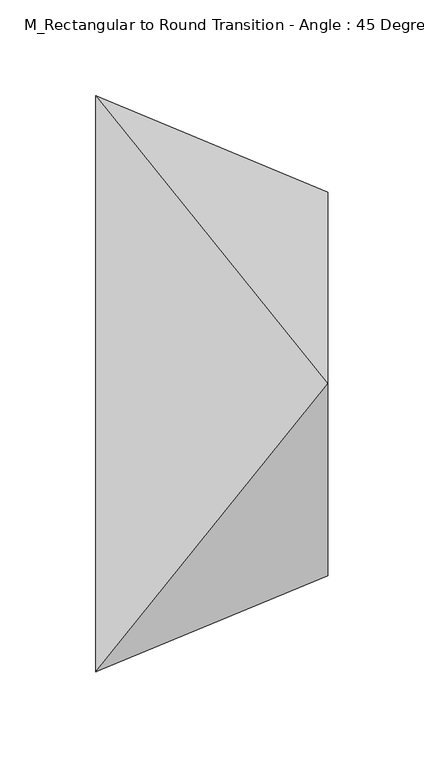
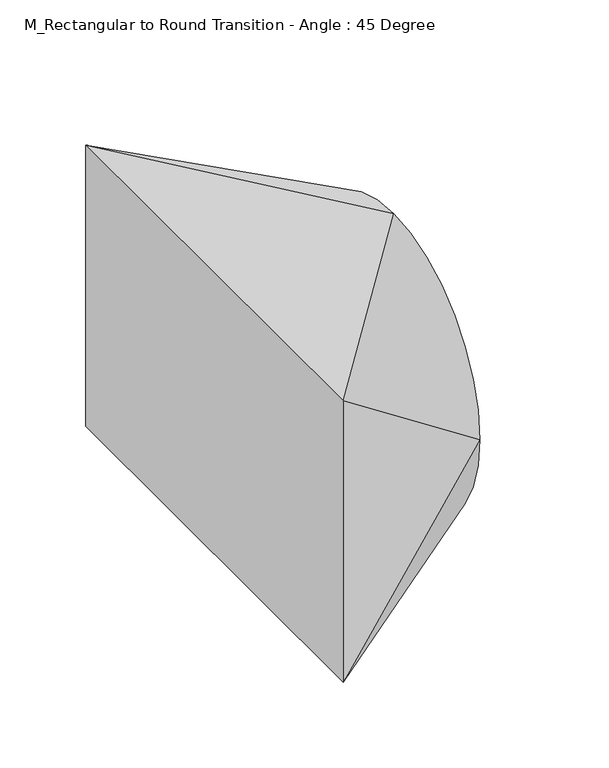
"""IFC4 building model written with IfcOpenShell, lengths in millimetres: duct fitting geometry, M_Rectangular to Round Transition - Angle : 45 Degree."""

from ifc_helpers import new_model, si_unit, frame, origin, place, context, project, spatial, circle_curve, source, transform, mapped, element, save
from ifc_brep_helpers import plane_surface, spline_surface, advanced_brep


def m_rectangular_to_round_transition_angle_45_degree_7e9c3f7e(model_context):
    return source(origin(), model_context, "Body", "AdvancedBrep", [
        advanced_brep(
        [(0.0, -150.0, -100.0), (0.0, -150.0, 100.0), (0.0, 150.0, 100.0), (0.0, 150.0, -100.0), (120.7106781, -100.0, 0.0), (120.7106781, 0.0, -100.0), (120.7106781, 100.0, 0.0), (120.7106781, 0.0, 100.0)],
        [
            (0, 1),
            (1, 2),
            (2, 3),
            (3, 0),
            (4, 5, circle_curve(frame((120.7106781, 0.0, 0.0), z_axis=(1.0, 0.0, 0.0), x_axis=(0.0, -1.0, 0.0)), 100.0)),
            (5, 6, circle_curve(frame((120.7106781, 0.0, 0.0), z_axis=(1.0, 0.0, 0.0), x_axis=(0.0, -1.0, 0.0)), 100.0)),
            (6, 7, circle_curve(frame((120.7106781, 0.0, 0.0), z_axis=(1.0, 0.0, 0.0), x_axis=(0.0, -1.0, 0.0)), 100.0)),
            (7, 4, circle_curve(frame((120.7106781, 0.0, 0.0), z_axis=(1.0, 0.0, 0.0), x_axis=(0.0, -1.0, 0.0)), 100.0)),
            (0, 4),
            (4, 1),
            (7, 1),
            (7, 2),
            (6, 2),
            (6, 3),
            (5, 3),
            (5, 0),
        ],
        [
            plane_surface(frame((0.0, 0.0, 0.0), z_axis=(-1.0, 0.0, 0.0), x_axis=(0.0, 1.0, 0.0))),
            plane_surface(frame((120.7106781, 0.0, 0.0), z_axis=(1.0, 0.0, 0.0), x_axis=(0.0, 1.0, 0.0))),
            plane_surface(frame((120.7106781, -100.0, 0.0), z_axis=(0.38268343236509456, -0.9238795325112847, 0.0), x_axis=(0.0, 0.0, 1.0))),
            spline_surface(2, 1, [[(120.7106781, -100.0, 0.0), (0.0, -150.0, 100.0)], [(120.7106781, -100.0, 100.0), (0.0, -150.0, 100.0)], [(120.7106781, 0.0, 100.0), (0.0, -150.0, 100.0)]], [3, 3], [2, 2], [0.0, 1.0], [0.0, 1.0], weights=[[1.0, 1.0], [0.7071067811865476, 0.7071067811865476], [1.0, 1.0]]),
            plane_surface(frame((120.7106781, 0.0, 100.0), z_axis=(0.0, 0.0, 1.0), x_axis=(0.0, 1.0, 0.0))),
            spline_surface(2, 1, [[(120.7106781, 0.0, 100.0), (0.0, 150.0, 100.0)], [(120.7106781, 100.0, 100.0), (0.0, 150.0, 100.0)], [(120.7106781, 100.0, 0.0), (0.0, 150.0, 100.0)]], [3, 3], [2, 2], [0.0, 1.0], [0.0, 1.0], weights=[[1.0, 1.0], [0.7071067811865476, 0.7071067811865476], [1.0, 1.0]]),
            plane_surface(frame((120.7106781, 100.0, 0.0), z_axis=(0.38268343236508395, 0.9238795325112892, 0.0), x_axis=(0.0, 0.0, -1.0))),
            spline_surface(2, 1, [[(120.7106781, 100.0, 0.0), (0.0, 150.0, -100.0)], [(120.7106781, 100.0, -100.0), (0.0, 150.0, -100.0)], [(120.7106781, 0.0, -100.0), (0.0, 150.0, -100.0)]], [3, 3], [2, 2], [0.0, 1.0], [0.0, 1.0], weights=[[1.0, 1.0], [0.7071067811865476, 0.7071067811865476], [1.0, 1.0]]),
            plane_surface(frame((120.7106781, 0.0, -100.0), z_axis=(0.0, 0.0, -1.0), x_axis=(0.0, -1.0, 0.0))),
            spline_surface(2, 1, [[(120.7106781, 0.0, -100.0), (0.0, -150.0, -100.0)], [(120.7106781, -100.0, -100.0), (0.0, -150.0, -100.0)], [(120.7106781, -100.0, 0.0), (0.0, -150.0, -100.0)]], [3, 3], [2, 2], [0.0, 1.0], [0.0, 1.0], weights=[[1.0, 1.0], [0.7071067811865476, 0.7071067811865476], [1.0, 1.0]]),
        ],
        [
            (0, [[1, 2, 3, 4]]),
            (1, [[5, 6, 7, 8]]),
            (2, [[-1, 9, 10]]),
            (3, [[-8, 11, -10]]),
            (4, [[-2, -11, 12]]),
            (5, [[-7, 13, -12]]),
            (6, [[-3, -13, 14]]),
            (7, [[-6, 15, -14]]),
            (8, [[-4, -15, 16]]),
            (9, [[-5, -9, -16]]),
        ],
    ),
        advanced_brep(
        [(0.0, -150.0, -100.0), (0.0, -150.0, 100.0), (0.0, 150.0, 100.0), (0.0, 150.0, -100.0), (120.7106781, -100.0, 0.0), (120.7106781, 0.0, -100.0), (120.7106781, 100.0, 0.0), (120.7106781, 0.0, 100.0)],
        [
            (0, 1),
            (1, 2),
            (2, 3),
            (3, 0),
            (4, 5, circle_curve(frame((120.7106781, 0.0, 0.0), z_axis=(1.0, 0.0, 0.0), x_axis=(0.0, -1.0, 0.0)), 100.0)),
            (5, 6, circle_curve(frame((120.7106781, 0.0, 0.0), z_axis=(1.0, 0.0, 0.0), x_axis=(0.0, -1.0, 0.0)), 100.0)),
            (6, 7, circle_curve(frame((120.7106781, 0.0, 0.0), z_axis=(1.0, 0.0, 0.0), x_axis=(0.0, -1.0, 0.0)), 100.0)),
            (7, 4, circle_curve(frame((120.7106781, 0.0, 0.0), z_axis=(1.0, 0.0, 0.0), x_axis=(0.0, -1.0, 0.0)), 100.0)),
            (0, 4),
            (4, 1),
            (7, 1),
            (7, 2),
            (6, 2),
            (6, 3),
            (5, 3),
            (5, 0),
        ],
        [
            plane_surface(frame((0.0, 0.0, 0.0), z_axis=(-1.0, 0.0, 0.0), x_axis=(0.0, 1.0, 0.0))),
            plane_surface(frame((120.7106781, 0.0, 0.0), z_axis=(1.0, 0.0, 0.0), x_axis=(0.0, 1.0, 0.0))),
            plane_surface(frame((120.7106781, -100.0, 0.0), z_axis=(0.3826834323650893, -0.9238795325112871, 0.0), x_axis=(0.0, 0.0, 1.0))),
            spline_surface(2, 1, [[(120.7106781, -100.0, 0.0), (0.0, -150.0, 100.0)], [(120.7106781, -100.0, 100.0), (0.0, -150.0, 100.0)], [(120.7106781, 0.0, 100.0), (0.0, -150.0, 100.0)]], [3, 3], [2, 2], [0.0, 1.0], [0.0, 1.0], weights=[[1.0, 1.0], [0.7071067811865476, 0.7071067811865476], [1.0, 1.0]]),
            plane_surface(frame((120.7106781, 0.0, 100.0), z_axis=(0.0, 0.0, 1.0), x_axis=(0.0, 1.0, 0.0))),
            spline_surface(2, 1, [[(120.7106781, 0.0, 100.0), (0.0, 150.0, 100.0)], [(120.7106781, 100.0, 100.0), (0.0, 150.0, 100.0)], [(120.7106781, 100.0, 0.0), (0.0, 150.0, 100.0)]], [3, 3], [2, 2], [0.0, 1.0], [0.0, 1.0], weights=[[1.0, 1.0], [0.7071067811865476, 0.7071067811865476], [1.0, 1.0]]),
            plane_surface(frame((120.7106781, 100.0, 0.0), z_axis=(0.38268343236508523, 0.9238795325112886, 0.0), x_axis=(0.0, 0.0, -1.0))),
            spline_surface(2, 1, [[(120.7106781, 100.0, 0.0), (0.0, 150.0, -100.0)], [(120.7106781, 100.0, -100.0), (0.0, 150.0, -100.0)], [(120.7106781, 0.0, -100.0), (0.0, 150.0, -100.0)]], [3, 3], [2, 2], [0.0, 1.0], [0.0, 1.0], weights=[[1.0, 1.0], [0.7071067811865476, 0.7071067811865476], [1.0, 1.0]]),
            plane_surface(frame((120.7106781, 0.0, -100.0), z_axis=(0.0, 0.0, -1.0), x_axis=(0.0, -1.0, 0.0))),
            spline_surface(2, 1, [[(120.7106781, 0.0, -100.0), (0.0, -150.0, -100.0)], [(120.7106781, -100.0, -100.0), (0.0, -150.0, -100.0)], [(120.7106781, -100.0, 0.0), (0.0, -150.0, -100.0)]], [3, 3], [2, 2], [0.0, 1.0], [0.0, 1.0], weights=[[1.0, 1.0], [0.7071067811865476, 0.7071067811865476], [1.0, 1.0]]),
        ],
        [
            (0, [[1, 2, 3, 4]]),
            (1, [[5, 6, 7, 8]]),
            (2, [[-1, 9, 10]]),
            (3, [[-8, 11, -10]]),
            (4, [[-2, -11, 12]]),
            (5, [[-7, 13, -12]]),
            (6, [[-3, -13, 14]]),
            (7, [[-6, 15, -14]]),
            (8, [[-4, -15, 16]]),
            (9, [[-5, -9, -16]]),
        ],
    ),
        advanced_brep(
        [(120.7106781, 0.0, 100.0), (120.7106781, -100.0, 0.0), (120.7106781, 0.0, -100.0), (120.7106781, 100.0, 0.0), (0.0, -150.0, 100.0), (0.0, 150.0, 100.0), (0.0, 150.0, -100.0), (0.0, -150.0, -100.0)],
        [
            (0, 1, circle_curve(frame((120.7106781, 0.0, 0.0), z_axis=(1.0, 0.0, 0.0), x_axis=(0.0, 1.0, 0.0)), 100.0)),
            (1, 2, circle_curve(frame((120.7106781, 0.0, 0.0), z_axis=(1.0, 0.0, 0.0), x_axis=(0.0, 1.0, 0.0)), 100.0)),
            (2, 3, circle_curve(frame((120.7106781, 0.0, 0.0), z_axis=(1.0, 0.0, 0.0), x_axis=(0.0, 1.0, 0.0)), 100.0)),
            (3, 0, circle_curve(frame((120.7106781, 0.0, 0.0), z_axis=(1.0, 0.0, 0.0), x_axis=(0.0, 1.0, 0.0)), 100.0)),
            (4, 5),
            (5, 6),
            (6, 7),
            (7, 4),
            (0, 4),
            (4, 1),
            (7, 1),
            (7, 2),
            (6, 2),
            (6, 3),
            (5, 3),
            (5, 0),
        ],
        [
            plane_surface(frame((120.7106781, 0.0, 0.0), z_axis=(1.0, 0.0, 0.0), x_axis=(0.0, 0.0, -1.0))),
            plane_surface(frame((0.0, 0.0, 0.0), z_axis=(-1.0, 0.0, 0.0), x_axis=(0.0, 0.0, -1.0))),
            spline_surface(2, 1, [[(0.0, -150.0, 100.0), (120.7106781, 0.0, 100.0)], [(0.0, -150.0, 100.0), (120.7106781, -100.0, 100.0)], [(0.0, -150.0, 100.0), (120.7106781, -100.0, 0.0)]], [3, 3], [2, 2], [0.0, 1.0], [0.0, 1.0], weights=[[1.0, 1.0], [0.7071067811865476, 0.7071067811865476], [1.0, 1.0]]),
            plane_surface(frame((0.0, -150.0, 0.0), z_axis=(0.3826834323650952, -0.9238795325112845, 0.0), x_axis=(0.0, 0.0, -1.0))),
            spline_surface(2, 1, [[(0.0, -150.0, -100.0), (120.7106781, -100.0, 0.0)], [(0.0, -150.0, -100.0), (120.7106781, -100.0, -100.0)], [(0.0, -150.0, -100.0), (120.7106781, 0.0, -100.0)]], [3, 3], [2, 2], [0.0, 1.0], [0.0, 1.0], weights=[[1.0, 1.0], [0.7071067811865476, 0.7071067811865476], [1.0, 1.0]]),
            plane_surface(frame((0.0, 0.0, -100.0), z_axis=(0.0, 0.0, -1.0), x_axis=(0.0, 1.0, 0.0))),
            spline_surface(2, 1, [[(0.0, 150.0, -100.0), (120.7106781, 0.0, -100.0)], [(0.0, 150.0, -100.0), (120.7106781, 100.0, -100.0)], [(0.0, 150.0, -100.0), (120.7106781, 100.0, 0.0)]], [3, 3], [2, 2], [0.0, 1.0], [0.0, 1.0], weights=[[1.0, 1.0], [0.7071067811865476, 0.7071067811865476], [1.0, 1.0]]),
            plane_surface(frame((0.0, 150.0, 0.0), z_axis=(0.38268343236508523, 0.9238795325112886, 0.0), x_axis=(0.0, 0.0, 1.0))),
            spline_surface(2, 1, [[(0.0, 150.0, 100.0), (120.7106781, 100.0, 0.0)], [(0.0, 150.0, 100.0), (120.7106781, 100.0, 100.0)], [(0.0, 150.0, 100.0), (120.7106781, 0.0, 100.0)]], [3, 3], [2, 2], [0.0, 1.0], [0.0, 1.0], weights=[[1.0, 1.0], [0.7071067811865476, 0.7071067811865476], [1.0, 1.0]]),
            plane_surface(frame((0.0, 0.0, 100.0), z_axis=(0.0, 0.0, 1.0), x_axis=(0.0, -1.0, 0.0))),
        ],
        [
            (0, [[1, 2, 3, 4]]),
            (1, [[5, 6, 7, 8]]),
            (2, [[-1, 9, 10]]),
            (3, [[-8, 11, -10]]),
            (4, [[-2, -11, 12]]),
            (5, [[-7, 13, -12]]),
            (6, [[-3, -13, 14]]),
            (7, [[-6, 15, -14]]),
            (8, [[-4, -15, 16]]),
            (9, [[-5, -9, -16]]),
        ],
    ),
    ])


if __name__ == "__main__":
    model = new_model("IFC4")
    model_context = context("Model", 3, world=origin())
    ifc_project = project(units=[si_unit("LENGTHUNIT", "METRE", prefix="MILLI")], contexts=[model_context])
    site = spatial("IfcSite", under=ifc_project)
    building = spatial("IfcBuilding", under=site)
    placement = place(None, origin())
    m_rectangular_to_round_transition_angle_45_degree_shape = m_rectangular_to_round_transition_angle_45_degree_7e9c3f7e(model_context)
    element("IfcDuctFitting", 1, ObjectType="M_Rectangular to Round Transition - Angle : 45 Degree", at=placement, inside=building, context=model_context, shape_type="MappedRepresentation", body=[
        mapped(m_rectangular_to_round_transition_angle_45_degree_shape, transform((0.0, 0.0, 0.0), x_axis=(1.0, 0.0, 0.0), y_axis=(0.0, 1.0, 0.0), z_axis=(0.0, 0.0, 1.0))),
    ])
    save(model, "model.ifc")
